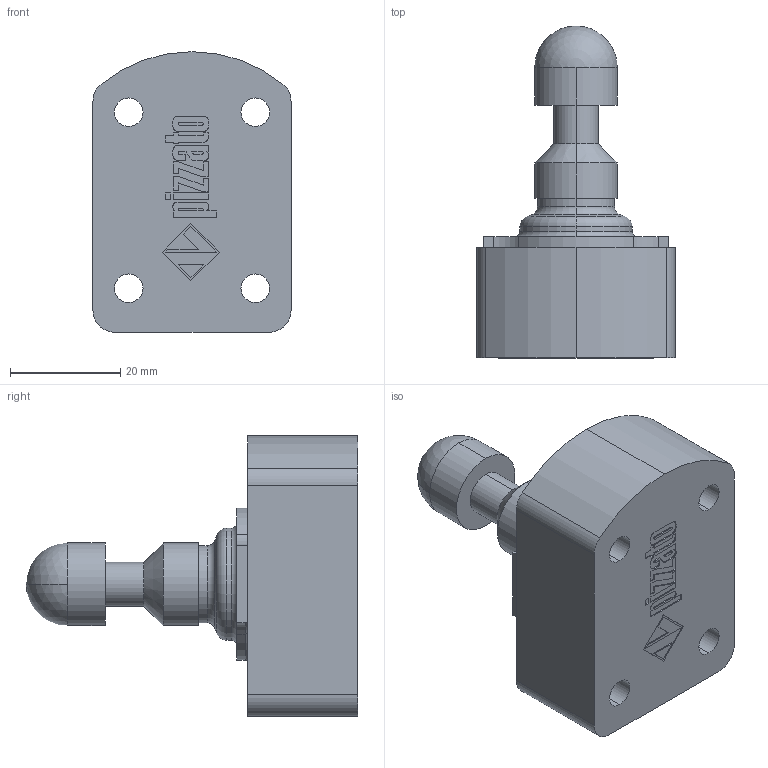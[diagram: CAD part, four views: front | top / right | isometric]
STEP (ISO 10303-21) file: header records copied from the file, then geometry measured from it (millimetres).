
FILE_DESCRIPTION (( 'STEP AP214' ), '1' );
FILE_NAME ('ZF_STEP_VN_NS-Fxx.step', '2017-05-25T06:18:39', ( 'utente' ), ( 'Microsoft' ), 'SwSTEP 2.0', 'SolidWorks 2014', '' );
FILE_SCHEMA (( 'AUTOMOTIVE_DESIGN' ));
Length unit declared in the file: millimetre
Products named in the file (1): ZF_STEP_VN_NS-Fxx
Bounding box: 36 x 60.3 x 51 mm (x, y, z)
Volume: 38843.4 mm3; surface area: 10132.4 mm2
Topology: 1 solids, 1 shells, 241 faces, 620 edges, 406 vertices
Faces by surface type: plane 135, cylinder 49, bspline 41, torus 10, cone 4, sphere 2
Entity records: 7537 total; most frequent: CARTESIAN_POINT 1815, ORIENTED_EDGE 1236, DIRECTION 1047, EDGE_CURVE 618, VERTEX_POINT 406, VECTOR 403, LINE 403, AXIS2_PLACEMENT_3D 322
